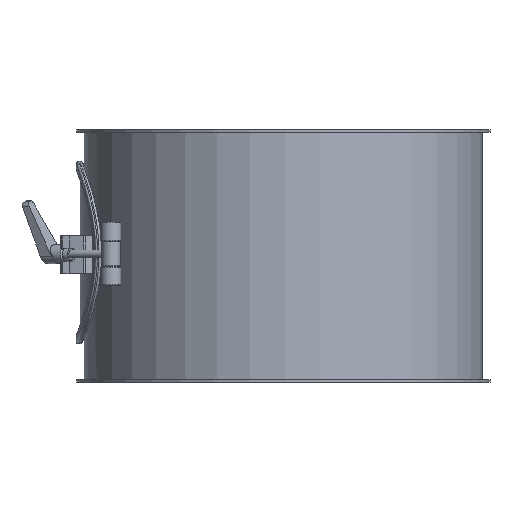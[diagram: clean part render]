
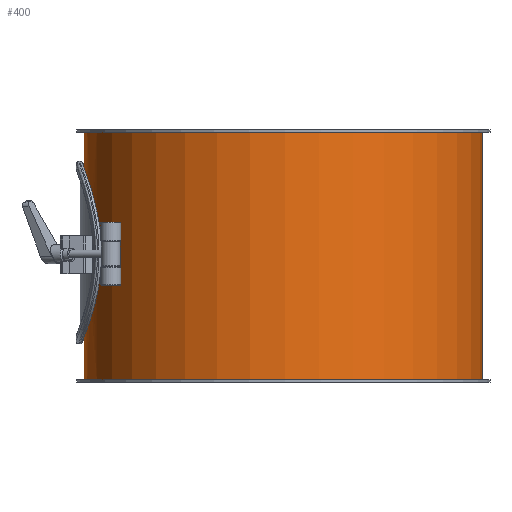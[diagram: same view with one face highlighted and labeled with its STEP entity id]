
A CAD part, front view. The second image highlights one B-rep face of the part: STEP entity #400.
In plain terms, the highlighted cylindrical face has radius 158 mm (diameter 316 mm), a full revolution.
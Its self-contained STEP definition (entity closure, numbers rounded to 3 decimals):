
#185=CARTESIAN_POINT('',(-147.166,-57.5,100.));
#186=VERTEX_POINT('',#185);
#187=CARTESIAN_POINT('',(-147.166,-57.5,100.));
#188=CARTESIAN_POINT('',(-147.166,-57.5,96.352));
#189=CARTESIAN_POINT('',(-147.305,-57.147,92.592));
#190=CARTESIAN_POINT('',(-147.868,-55.675,85.135));
#191=CARTESIAN_POINT('',(-148.29,-54.556,81.439));
#192=CARTESIAN_POINT('',(-149.34,-51.613,74.367));
#193=CARTESIAN_POINT('',(-149.968,-49.786,70.986));
#194=CARTESIAN_POINT('',(-151.3,-45.576,64.74));
#195=CARTESIAN_POINT('',(-152.004,-43.193,61.876));
#196=CARTESIAN_POINT('',(-153.354,-38.126,56.808));
#197=CARTESIAN_POINT('',(-154.048,-35.262,54.426));
#198=CARTESIAN_POINT('',(-155.345,-29.016,50.216));
#199=CARTESIAN_POINT('',(-155.948,-25.634,48.388));
#200=CARTESIAN_POINT('',(-156.947,-18.56,45.443));
#201=CARTESIAN_POINT('',(-157.344,-14.862,44.324));
#202=CARTESIAN_POINT('',(-157.871,-7.405,42.852));
#203=CARTESIAN_POINT('',(-158.0,-3.645,42.5));
#204=CARTESIAN_POINT('',(-158.0,3.645,42.5));
#205=CARTESIAN_POINT('',(-157.871,7.405,42.852));
#206=CARTESIAN_POINT('',(-157.344,14.862,44.324));
#207=CARTESIAN_POINT('',(-156.947,18.56,45.443));
#208=CARTESIAN_POINT('',(-155.948,25.634,48.388));
#209=CARTESIAN_POINT('',(-155.345,29.016,50.216));
#210=CARTESIAN_POINT('',(-154.048,35.262,54.426));
#211=CARTESIAN_POINT('',(-153.354,38.126,56.808));
#212=CARTESIAN_POINT('',(-152.004,43.193,61.876));
#213=CARTESIAN_POINT('',(-151.3,45.576,64.74));
#214=CARTESIAN_POINT('',(-149.968,49.786,70.986));
#215=CARTESIAN_POINT('',(-149.34,51.613,74.367));
#216=CARTESIAN_POINT('',(-148.29,54.556,81.439));
#217=CARTESIAN_POINT('',(-147.868,55.675,85.135));
#218=CARTESIAN_POINT('',(-147.305,57.147,92.592));
#219=CARTESIAN_POINT('',(-147.166,57.5,96.352));
#220=CARTESIAN_POINT('',(-147.166,57.5,103.648));
#221=CARTESIAN_POINT('',(-147.305,57.147,107.408));
#222=CARTESIAN_POINT('',(-147.868,55.675,114.865));
#223=CARTESIAN_POINT('',(-148.29,54.556,118.561));
#224=CARTESIAN_POINT('',(-149.34,51.613,125.633));
#225=CARTESIAN_POINT('',(-149.968,49.786,129.014));
#226=CARTESIAN_POINT('',(-151.3,45.576,135.26));
#227=CARTESIAN_POINT('',(-152.004,43.193,138.124));
#228=CARTESIAN_POINT('',(-153.354,38.126,143.192));
#229=CARTESIAN_POINT('',(-154.048,35.262,145.574));
#230=CARTESIAN_POINT('',(-155.345,29.016,149.784));
#231=CARTESIAN_POINT('',(-155.948,25.634,151.612));
#232=CARTESIAN_POINT('',(-156.947,18.56,154.557));
#233=CARTESIAN_POINT('',(-157.344,14.862,155.676));
#234=CARTESIAN_POINT('',(-157.871,7.405,157.148));
#235=CARTESIAN_POINT('',(-158.0,3.645,157.5));
#236=CARTESIAN_POINT('',(-158.0,-3.645,157.5));
#237=CARTESIAN_POINT('',(-157.871,-7.405,157.148));
#238=CARTESIAN_POINT('',(-157.344,-14.862,155.676));
#239=CARTESIAN_POINT('',(-156.947,-18.56,154.557));
#240=CARTESIAN_POINT('',(-155.948,-25.634,151.612));
#241=CARTESIAN_POINT('',(-155.345,-29.016,149.784));
#242=CARTESIAN_POINT('',(-154.048,-35.262,145.574));
#243=CARTESIAN_POINT('',(-153.354,-38.126,143.192));
#244=CARTESIAN_POINT('',(-152.004,-43.193,138.124));
#245=CARTESIAN_POINT('',(-151.3,-45.576,135.26));
#246=CARTESIAN_POINT('',(-149.968,-49.786,129.014));
#247=CARTESIAN_POINT('',(-149.34,-51.613,125.633));
#248=CARTESIAN_POINT('',(-148.29,-54.556,118.561));
#249=CARTESIAN_POINT('',(-147.868,-55.675,114.865));
#250=CARTESIAN_POINT('',(-147.305,-57.147,107.408));
#251=CARTESIAN_POINT('',(-147.166,-57.5,103.648));
#252=CARTESIAN_POINT('',(-147.166,-57.5,100.));
#253=B_SPLINE_CURVE_WITH_KNOTS('',3,(#187,#188,#189,#190,#191,#192,#193,#194,#195,#196,#197,#198,#199,#200,#201,#202,#203,#204,#205,#206,#207,#208,#209,#210,#211,#212,#213,#214,#215,#216,#217,#218,#219,#220,#221,#222,#223,#224,#225,#226,#227,#228,#229,#230,#231,#232,#233,#234,#235,#236,#237,#238,#239,#240,#241,#242,#243,#244,#245,#246,#247,#248,#249,#250,#251,#252),.UNSPECIFIED.,.T.,.U.,(4,2,2,2,2,2,2,2,2,2,2,2,2,2,2,2,2,2,2,2,2,2,2,2,2,2,2,2,2,2,2,2,4),(0.0,1.094,2.189,3.283,4.377,5.471,6.564,7.658,8.752,9.845,10.939,12.032,13.126,14.22,15.314,16.409,17.503,18.597,19.692,20.786,21.88,22.974,24.067,25.161,26.255,27.348,28.442,29.535,30.629,31.723,32.817,33.912,35.006),.UNSPECIFIED.);
#254=EDGE_CURVE('',#186,#186,#253,.T.);
#295=CARTESIAN_POINT('',(158.0,0.,198.0));
#296=VERTEX_POINT('',#295);
#297=CARTESIAN_POINT('',(0.0,0.0,198.0));
#298=DIRECTION('',(0.0,0.0,-1.0));
#299=DIRECTION('',(-1.0,0.0,0.0));
#300=AXIS2_PLACEMENT_3D('',#297,#298,#299);
#301=CIRCLE('',#300,158.0);
#302=EDGE_CURVE('',#296,#296,#301,.T.);
#343=CARTESIAN_POINT('',(-158.0,0.,2.0));
#344=VERTEX_POINT('',#343);
#345=CARTESIAN_POINT('',(0.0,0.0,2.0));
#346=DIRECTION('',(0.0,0.0,1.0));
#347=DIRECTION('',(-1.0,0.0,0.0));
#348=AXIS2_PLACEMENT_3D('',#345,#346,#347);
#349=CIRCLE('',#348,158.0);
#350=EDGE_CURVE('',#344,#344,#349,.T.);
#386=CARTESIAN_POINT('',(0.0,0.0,0.0));
#387=DIRECTION('',(0.0,0.0,1.0));
#388=DIRECTION('',(-1.0,0.0,0.0));
#389=AXIS2_PLACEMENT_3D('',#386,#387,#388);
#390=CYLINDRICAL_SURFACE('',#389,158.0);
#391=ORIENTED_EDGE('',*,*,#302,.T.);
#392=EDGE_LOOP('',(#391));
#393=FACE_OUTER_BOUND('',#392,.T.);
#394=ORIENTED_EDGE('',*,*,#254,.T.);
#395=EDGE_LOOP('',(#394));
#396=FACE_BOUND('',#395,.T.);
#397=ORIENTED_EDGE('',*,*,#350,.T.);
#398=EDGE_LOOP('',(#397));
#399=FACE_BOUND('',#398,.T.);
#400=ADVANCED_FACE('',(#393,#396,#399),#390,.T.);
